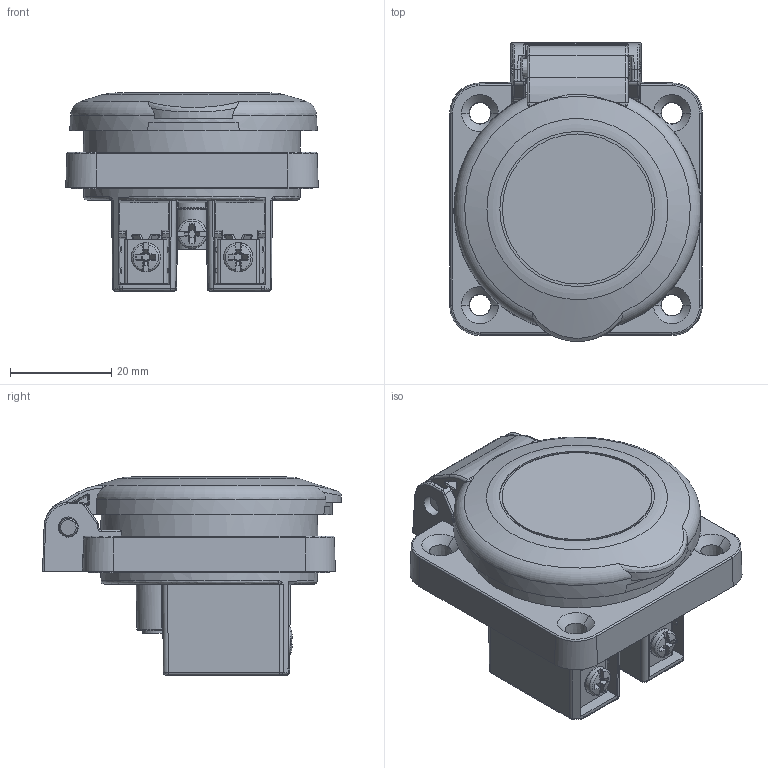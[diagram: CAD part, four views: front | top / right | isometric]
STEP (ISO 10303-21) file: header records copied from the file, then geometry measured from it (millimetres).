
FILE_DESCRIPTION(/* description */ (''),/* implementation_level */ '2;1');
FILE_NAME(/* name */ '4000324.stp',/* time_stamp */ '2019-09-02T08:08:29+02:00',/* author */ (''),/* organization */ (''),/* preprocessor_version */ 'ST-DEVELOPER v16.7',/* originating_system */ 'SIEMENS PLM Software NX 1867',/* authorisation */ '');
FILE_SCHEMA (('AUTOMOTIVE_DESIGN { 1 0 10303 214 3 1 1 1 }'));
Products named in the file (1): BSOM4094207D6x2u
Bounding box: 50 x 59.2 x 39.21 mm (x, y, z)
Volume: 22365 mm3; surface area: 30089.5 mm2
Topology: 11 solids, 11 shells, 1386 faces, 3520 edges, 2139 vertices
Faces by surface type: plane 557, cylinder 341, bspline 309, torus 76, cone 60, sphere 37, extrusion 6
Full cylindrical faces by diameter (mm): 0.2 x1, 0.4 x1, 3 x3, 3.5 x3, 3.6 x1, 3.7 x2, 4 x2, 4.8 x1, 4.85 x1, 5.5 x2, 5.8 x3, 6.4 x1
Entity records: 65165 total; most frequent: CARTESIAN_POINT 34578, ORIENTED_EDGE 6712, DIRECTION 5608, EDGE_CURVE 3356, VERTEX_POINT 2105, AXIS2_PLACEMENT_3D 1989, VECTOR 1630, LINE 1624
